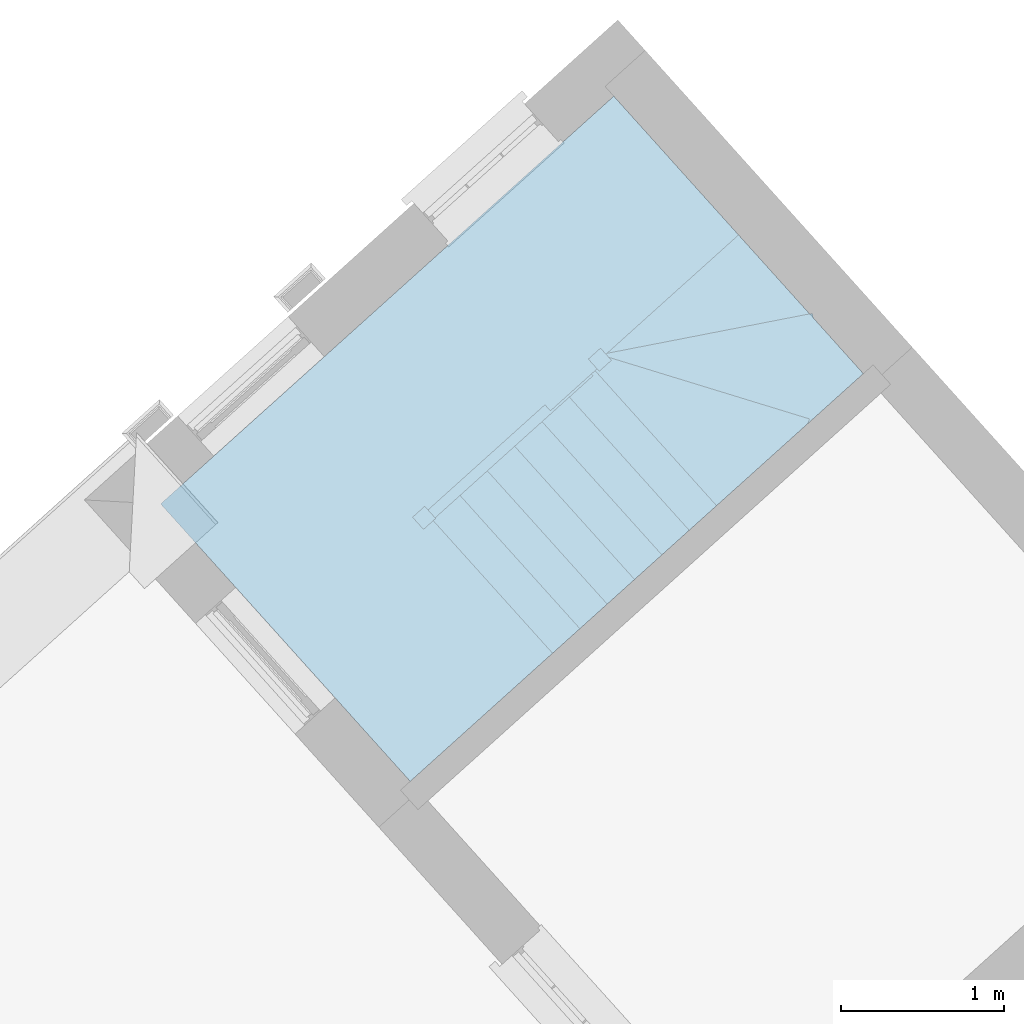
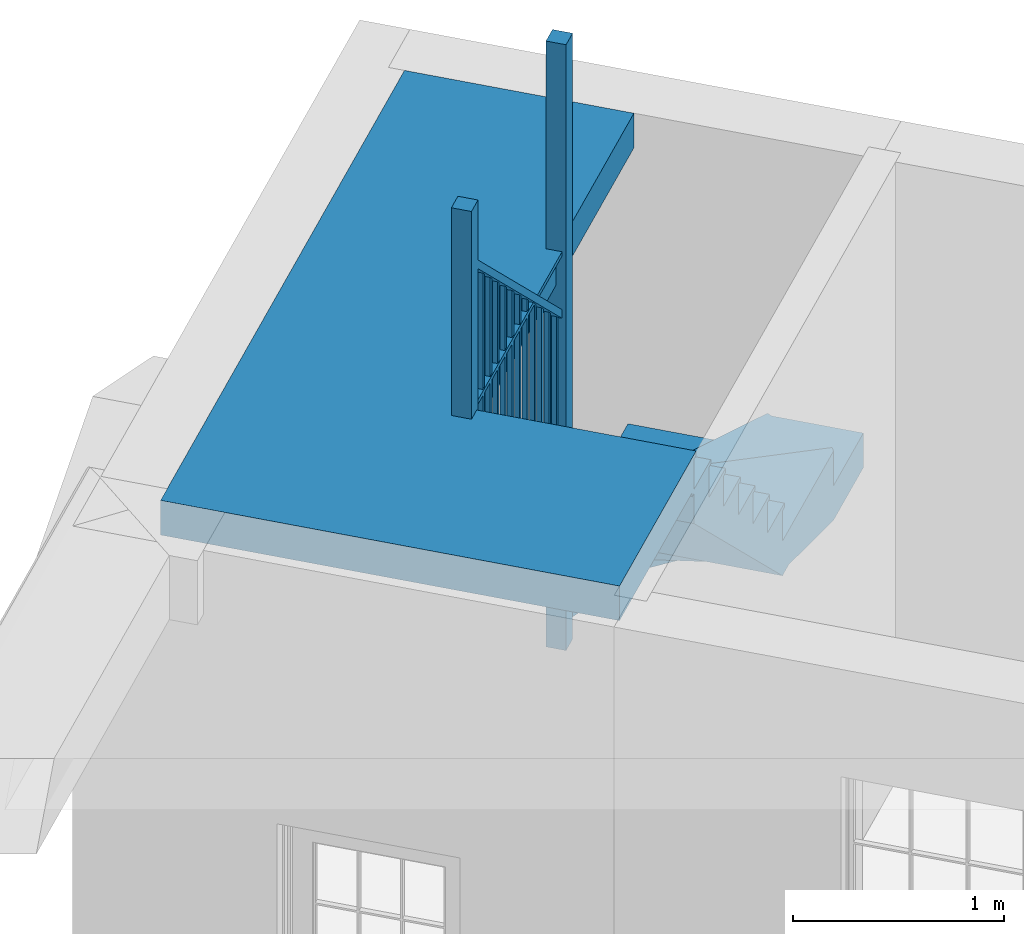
# One storey, part 6 of 6: 1 stair.
"""IFC4 building model written with IfcOpenShell, lengths in metres."""

from ifc_helpers import new_model, si_unit, frame, origin, origin_with_axes, place, context, subcontext, project, spatial, faceted_brep, element, save


model = new_model("IFC4")

# Units and contexts
model_context = context("Model", 3, world=origin_with_axes())
body_context = subcontext(model_context, "Body", "Model", "MODEL_VIEW")
ifc_project = project(units=[si_unit("PLANEANGLEUNIT", "RADIAN"), si_unit("MASSUNIT", "GRAM", prefix="KILO"), si_unit("FORCEUNIT", "NEWTON", prefix="KILO"), si_unit("LENGTHUNIT", "METRE"), si_unit("AREAUNIT", "SQUARE_METRE"), si_unit("VOLUMEUNIT", "CUBIC_METRE")], contexts=[model_context, model_context])

# Sites, building, storey
site_1_placement = place(None, origin_with_axes())
site_1 = spatial("IfcSite", under=ifc_project, at=site_1_placement, Name="Tamar")
site_2_placement = place(site_1_placement, origin_with_axes())
site_2 = spatial("IfcSite", under=site_1, at=site_2_placement, Name="Site plot-6", CompositionType="ELEMENT")
building_placement = place(None, origin_with_axes())
building = spatial("IfcBuilding", under=site_2, at=building_placement, Name="Building plot-6", CompositionType="ELEMENT")
storey_placement = place(None, frame((0.0, 0.0, 24.5), z_axis=(0.0, 0.0, 1.0), x_axis=(1.0, 0.0, 0.0)))
storey = spatial("IfcBuildingStorey", under=building, at=storey_placement, Name="plot-6 0", CompositionType="ELEMENT", Elevation=24.5)

# Stair
stair_placement = place(None, origin())
element("IfcStair", 1, at=stair_placement, inside=storey, Name="Stair", PredefinedType="NOTDEFINED", context=body_context, shape_type="Brep", body=[
    faceted_brep([(236.812, 283.066598, 28.1), (236.048192, 283.91553, 28.1), (234.972724, 282.947899, 28.1), (235.736532, 282.098968, 28.1), (235.736532, 282.098968, 27.9), (234.972724, 282.947899, 27.9), (236.048192, 283.91553, 27.9), (236.812, 283.066598, 27.9)], [[[0, 1, 2, 3]], [[4, 5, 6, 7]], [[7, 6, 1, 0]], [[6, 5, 2, 1]], [[5, 4, 3, 2]], [[4, 7, 0, 3]]]),
    faceted_brep([(235.736532, 282.098968, 28.075), (235.756598, 282.076666, 28.075), (235.736532, 282.098968, 28.1), (236.832066, 283.044297, 28.075), (236.812, 283.066598, 28.075), (236.812, 283.066598, 28.1), (235.756598, 282.076666, 28.1), (236.832066, 283.044297, 28.1)], [[[0, 1, 2]], [[3, 4, 5]], [[1, 6, 2]], [[7, 3, 5]], [[2, 6, 7, 5]], [[0, 2, 5, 4]], [[1, 0, 4, 3]], [[6, 1, 3, 7]]]),
    faceted_brep([(235.732805, 282.028355, 29.3), (235.807145, 282.095241, 29.3), (235.740259, 282.16958, 29.3), (235.66592, 282.102695, 29.3), (235.66592, 282.102695, 28.1), (235.740259, 282.16958, 28.1), (235.807145, 282.095241, 28.1), (235.732805, 282.028355, 28.1)], [[[0, 1, 2, 3]], [[4, 5, 6, 7]], [[7, 6, 1, 0]], [[6, 5, 2, 1]], [[5, 4, 3, 2]], [[4, 7, 0, 3]]]),
    faceted_brep([(235.736532, 282.098968, 28.1), (234.972724, 282.947899, 28.1), (234.123792, 282.18409, 28.1), (234.887601, 281.335159, 28.1), (234.887601, 281.335159, 27.9), (234.123792, 282.18409, 27.9), (234.972724, 282.947899, 27.9), (235.736532, 282.098968, 27.9)], [[[0, 1, 2, 3]], [[4, 5, 6, 7]], [[7, 6, 1, 0]], [[6, 5, 2, 1]], [[5, 4, 3, 2]], [[4, 7, 0, 3]]]),
    faceted_brep([(234.907667, 281.312857, 28.075), (234.907667, 281.312857, 28.1), (234.887601, 281.335159, 28.075), (235.756598, 282.076666, 28.1), (235.756598, 282.076666, 28.075), (235.736532, 282.098968, 28.075), (234.887601, 281.335159, 28.1), (235.736532, 282.098968, 28.1)], [[[0, 1, 2]], [[3, 4, 5]], [[2, 1, 6]], [[3, 5, 7]], [[6, 1, 3, 7]], [[2, 6, 7, 5]], [[0, 2, 5, 4]], [[1, 0, 4, 3]]]),
    faceted_brep([(235.732805, 282.028355, 28.1), (235.807145, 282.095241, 28.1), (235.740259, 282.16958, 28.1), (235.66592, 282.102695, 28.1), (235.66592, 282.102695, 27.6), (235.740259, 282.16958, 27.6), (235.807145, 282.095241, 27.6), (235.732805, 282.028355, 27.6)], [[[0, 1, 2, 3]], [[4, 5, 6, 7]], [[7, 6, 1, 0]], [[6, 5, 2, 1]], [[5, 4, 3, 2]], [[4, 7, 0, 3]]]),
    faceted_brep([(235.736532, 282.098968, 27.9), (234.887601, 281.335159, 27.9), (234.887601, 281.335159, 28.1), (235.736532, 282.098968, 28.1)], [[[0, 1, 2, 3]], [[1, 0, 3, 2]]]),
    faceted_brep([(235.736532, 282.098968, 28.075), (235.715319, 282.077755, 28.075), (235.736532, 282.098968, 28.1), (235.715319, 282.077755, 28.1)], [[[0, 1, 2]], [[1, 0, 2]], [[1, 3, 2]], [[3, 1, 2]]]),
    faceted_brep([(235.807145, 282.095241, 29.3), (235.740259, 282.16958, 29.3), (235.66592, 282.102695, 29.3), (235.732805, 282.028355, 29.3), (235.732805, 282.028355, 28.1), (235.66592, 282.102695, 28.1), (235.740259, 282.16958, 28.1), (235.807145, 282.095241, 28.1)], [[[0, 1, 2, 3]], [[4, 5, 6, 7]], [[7, 6, 1, 0]], [[6, 5, 2, 1]], [[5, 4, 3, 2]], [[4, 7, 0, 3]]]),
    faceted_brep([(235.736532, 282.098968, 28.1), (234.887601, 281.335159, 28.1), (235.65141, 280.486228, 28.1), (236.500341, 281.250036, 28.1), (236.500341, 281.250036, 27.9), (235.65141, 280.486228, 27.9), (234.887601, 281.335159, 27.9), (235.736532, 282.098968, 27.9)], [[[0, 1, 2, 3]], [[4, 5, 6, 7]], [[7, 6, 1, 0]], [[6, 5, 2, 1]], [[5, 4, 3, 2]], [[4, 7, 0, 3]]]),
    faceted_brep([(236.500341, 281.250036, 28.075), (236.522643, 281.270102, 28.075), (236.500341, 281.250036, 28.1), (235.758834, 282.119033, 28.075), (235.736532, 282.098968, 28.075), (235.736532, 282.098968, 28.1), (236.522643, 281.270102, 28.1), (235.758834, 282.119033, 28.1)], [[[0, 1, 2]], [[3, 4, 5]], [[1, 6, 2]], [[7, 3, 5]], [[2, 6, 7, 5]], [[0, 2, 5, 4]], [[1, 0, 4, 3]], [[6, 1, 3, 7]]]),
    faceted_brep([(235.807145, 282.095241, 28.1), (235.740259, 282.16958, 28.1), (235.66592, 282.102695, 28.1), (235.732805, 282.028355, 28.1), (235.732805, 282.028355, 27.6), (235.66592, 282.102695, 27.6), (235.740259, 282.16958, 27.6), (235.807145, 282.095241, 27.6)], [[[0, 1, 2, 3]], [[4, 5, 6, 7]], [[7, 6, 1, 0]], [[6, 5, 2, 1]], [[5, 4, 3, 2]], [[4, 7, 0, 3]]]),
    faceted_brep([(235.736532, 282.098968, 27.9), (236.500341, 281.250036, 27.9), (236.667605, 281.400529, 27.9), (235.903796, 282.24946, 27.9), (235.903796, 282.24946, 27.5), (236.667605, 281.400529, 27.5), (236.500341, 281.250036, 27.7), (235.736532, 282.098968, 27.7)], [[[0, 1, 2, 3]], [[4, 5, 6, 7]], [[7, 6, 1, 0]], [[1, 6, 5, 2]], [[5, 4, 3, 2]], [[3, 4, 7, 0]]]),
    faceted_brep([(236.689907, 281.420594, 27.875), (236.689907, 281.420594, 27.9), (236.667605, 281.400529, 27.875), (236.478039, 281.229971, 27.9), (236.478039, 281.229971, 27.875), (236.500341, 281.250036, 27.875), (236.667605, 281.400529, 27.9), (236.500341, 281.250036, 27.9), (235.906032, 282.291827, 27.9), (235.903796, 282.24946, 27.9), (235.903796, 282.24946, 27.875), (235.906032, 282.291827, 27.875), (235.694165, 282.101204, 27.9), (235.736532, 282.098968, 27.9), (235.736532, 282.098968, 27.875), (235.694165, 282.101204, 27.875)], [[[0, 1, 2]], [[3, 4, 5]], [[2, 1, 6]], [[3, 5, 7]], [[6, 1, 8, 9]], [[2, 6, 9, 10]], [[0, 2, 10, 11]], [[1, 0, 11, 8]], [[9, 8, 12, 13]], [[10, 9, 13, 14]], [[11, 10, 14, 15]], [[8, 11, 15, 12]], [[13, 12, 3, 7]], [[14, 13, 7, 5]], [[15, 14, 5, 4]], [[12, 15, 4, 3]]]),
    faceted_brep([(235.903796, 282.24946, 28.8), (235.885211, 282.232738, 28.8), (235.901933, 282.214154, 28.8), (235.920517, 282.230875, 28.8), (235.920517, 282.230875, 27.9), (235.901933, 282.214154, 27.9), (235.885211, 282.232738, 27.9), (235.903796, 282.24946, 27.9)], [[[0, 1, 2, 3]], [[4, 5, 6, 7]], [[7, 6, 1, 0]], [[6, 5, 2, 1]], [[5, 4, 3, 2]], [[4, 7, 0, 3]]]),
    faceted_brep([(235.820164, 282.174214, 28.9), (235.801579, 282.157492, 28.9), (235.818301, 282.138908, 28.9), (235.836886, 282.155629, 28.9), (235.836886, 282.155629, 27.9), (235.818301, 282.138908, 27.9), (235.801579, 282.157492, 27.9), (235.820164, 282.174214, 27.9)], [[[0, 1, 2, 3]], [[4, 5, 6, 7]], [[7, 6, 1, 0]], [[6, 5, 2, 1]], [[5, 4, 3, 2]], [[4, 7, 0, 3]]]),
    faceted_brep([(235.933894, 282.216007, 28.75), (235.890419, 282.264328, 28.75), (235.890419, 282.264328, 28.8), (235.933894, 282.216007, 28.8), (235.723155, 282.113836, 28.95), (235.766631, 282.065515, 28.95), (235.766631, 282.065515, 29.0), (235.723155, 282.113836, 29.0)], [[[0, 1, 2, 3]], [[4, 5, 6, 7]], [[0, 5, 4, 1]], [[3, 2, 7, 6]], [[0, 3, 6, 5]], [[2, 1, 4, 7]]]),
    faceted_brep([(235.903796, 282.24946, 27.7), (236.667605, 281.400529, 27.7), (236.834868, 281.551021, 27.7), (236.07106, 282.399952, 27.7), (236.07106, 282.399952, 27.3), (236.834868, 281.551021, 27.3), (236.667605, 281.400529, 27.5), (235.903796, 282.24946, 27.5)], [[[0, 1, 2, 3]], [[4, 5, 6, 7]], [[7, 6, 1, 0]], [[1, 6, 5, 2]], [[5, 4, 3, 2]], [[3, 4, 7, 0]]]),
    faceted_brep([(236.85717, 281.571086, 27.675), (236.85717, 281.571086, 27.7), (236.834868, 281.551021, 27.675), (236.645303, 281.380463, 27.7), (236.645303, 281.380463, 27.675), (236.667605, 281.400529, 27.675), (236.834868, 281.551021, 27.7), (236.667605, 281.400529, 27.7), (236.073296, 282.442319, 27.7), (236.07106, 282.399952, 27.7), (236.07106, 282.399952, 27.675), (236.073296, 282.442319, 27.675), (235.861429, 282.251696, 27.7), (235.903796, 282.24946, 27.7), (235.903796, 282.24946, 27.675), (235.861429, 282.251696, 27.675)], [[[0, 1, 2]], [[3, 4, 5]], [[2, 1, 6]], [[3, 5, 7]], [[6, 1, 8, 9]], [[2, 6, 9, 10]], [[0, 2, 10, 11]], [[1, 0, 11, 8]], [[9, 8, 12, 13]], [[10, 9, 13, 14]], [[11, 10, 14, 15]], [[8, 11, 15, 12]], [[13, 12, 3, 7]], [[14, 13, 7, 5]], [[15, 14, 5, 4]], [[12, 15, 4, 3]]]),
    faceted_brep([(236.07106, 282.399952, 28.6), (236.052475, 282.383231, 28.6), (236.069196, 282.364646, 28.6), (236.087781, 282.381367, 28.6), (236.087781, 282.381367, 27.7), (236.069196, 282.364646, 27.7), (236.052475, 282.383231, 27.7), (236.07106, 282.399952, 27.7)], [[[0, 1, 2, 3]], [[4, 5, 6, 7]], [[7, 6, 1, 0]], [[6, 5, 2, 1]], [[5, 4, 3, 2]], [[4, 7, 0, 3]]]),
    faceted_brep([(235.987428, 282.324706, 28.7), (235.968843, 282.307985, 28.7), (235.985564, 282.2894, 28.7), (236.004149, 282.306121, 28.7), (236.004149, 282.306121, 27.7), (235.985564, 282.2894, 27.7), (235.968843, 282.307985, 27.7), (235.987428, 282.324706, 27.7)], [[[0, 1, 2, 3]], [[4, 5, 6, 7]], [[7, 6, 1, 0]], [[6, 5, 2, 1]], [[5, 4, 3, 2]], [[4, 7, 0, 3]]]),
    faceted_brep([(236.101158, 282.366499, 28.55), (236.057683, 282.41482, 28.55), (236.057683, 282.41482, 28.6), (236.101158, 282.366499, 28.6), (235.890419, 282.264328, 28.75), (235.933894, 282.216007, 28.75), (235.933894, 282.216007, 28.8), (235.890419, 282.264328, 28.8)], [[[0, 1, 2, 3]], [[4, 5, 6, 7]], [[0, 5, 4, 1]], [[3, 2, 7, 6]], [[0, 3, 6, 5]], [[2, 1, 4, 7]]]),
    faceted_brep([(236.07106, 282.399952, 27.5), (236.834868, 281.551021, 27.5), (237.002132, 281.701513, 27.5), (236.238323, 282.550444, 27.5), (236.238323, 282.550444, 27.1), (237.002132, 281.701513, 27.1), (236.834868, 281.551021, 27.3), (236.07106, 282.399952, 27.3)], [[[0, 1, 2, 3]], [[4, 5, 6, 7]], [[7, 6, 1, 0]], [[1, 6, 5, 2]], [[5, 4, 3, 2]], [[3, 4, 7, 0]]]),
    faceted_brep([(237.024434, 281.721578, 27.475), (237.024434, 281.721578, 27.5), (237.002132, 281.701513, 27.475), (236.812567, 281.530955, 27.5), (236.812567, 281.530955, 27.475), (236.834868, 281.551021, 27.475), (237.002132, 281.701513, 27.5), (236.834868, 281.551021, 27.5), (236.24056, 282.592811, 27.5), (236.238323, 282.550444, 27.5), (236.238323, 282.550444, 27.475), (236.24056, 282.592811, 27.475), (236.028692, 282.402188, 27.5), (236.07106, 282.399952, 27.5), (236.07106, 282.399952, 27.475), (236.028692, 282.402188, 27.475)], [[[0, 1, 2]], [[3, 4, 5]], [[2, 1, 6]], [[3, 5, 7]], [[6, 1, 8, 9]], [[2, 6, 9, 10]], [[0, 2, 10, 11]], [[1, 0, 11, 8]], [[9, 8, 12, 13]], [[10, 9, 13, 14]], [[11, 10, 14, 15]], [[8, 11, 15, 12]], [[13, 12, 3, 7]], [[14, 13, 7, 5]], [[15, 14, 5, 4]], [[12, 15, 4, 3]]]),
    faceted_brep([(236.238323, 282.550444, 28.4), (236.219739, 282.533723, 28.4), (236.23646, 282.515138, 28.4), (236.255045, 282.531859, 28.4), (236.255045, 282.531859, 27.5), (236.23646, 282.515138, 27.5), (236.219739, 282.533723, 27.5), (236.238323, 282.550444, 27.5)], [[[0, 1, 2, 3]], [[4, 5, 6, 7]], [[7, 6, 1, 0]], [[6, 5, 2, 1]], [[5, 4, 3, 2]], [[4, 7, 0, 3]]]),
    faceted_brep([(236.154692, 282.475198, 28.5), (236.136107, 282.458477, 28.5), (236.152828, 282.439892, 28.5), (236.171413, 282.456613, 28.5), (236.171413, 282.456613, 27.5), (236.152828, 282.439892, 27.5), (236.136107, 282.458477, 27.5), (236.154692, 282.475198, 27.5)], [[[0, 1, 2, 3]], [[4, 5, 6, 7]], [[7, 6, 1, 0]], [[6, 5, 2, 1]], [[5, 4, 3, 2]], [[4, 7, 0, 3]]]),
    faceted_brep([(236.268422, 282.516991, 28.35), (236.224946, 282.565312, 28.35), (236.224946, 282.565312, 28.4), (236.268422, 282.516991, 28.4), (236.057683, 282.41482, 28.55), (236.101158, 282.366499, 28.55), (236.101158, 282.366499, 28.6), (236.057683, 282.41482, 28.6)], [[[0, 1, 2, 3]], [[4, 5, 6, 7]], [[0, 5, 4, 1]], [[3, 2, 7, 6]], [[0, 3, 6, 5]], [[2, 1, 4, 7]]]),
    faceted_brep([(236.238323, 282.550444, 27.3), (237.002132, 281.701513, 27.3), (237.169396, 281.852005, 27.3), (236.405587, 282.700936, 27.3), (236.405587, 282.700936, 26.9), (237.169396, 281.852005, 26.9), (237.002132, 281.701513, 27.1), (236.238323, 282.550444, 27.1)], [[[0, 1, 2, 3]], [[4, 5, 6, 7]], [[7, 6, 1, 0]], [[1, 6, 5, 2]], [[5, 4, 3, 2]], [[3, 4, 7, 0]]]),
    faceted_brep([(237.191698, 281.87207, 27.275), (237.191698, 281.87207, 27.3), (237.169396, 281.852005, 27.275), (236.97983, 281.681447, 27.3), (236.97983, 281.681447, 27.275), (237.002132, 281.701513, 27.275), (237.169396, 281.852005, 27.3), (237.002132, 281.701513, 27.3), (236.407823, 282.743304, 27.3), (236.405587, 282.700936, 27.3), (236.405587, 282.700936, 27.275), (236.407823, 282.743304, 27.275), (236.195956, 282.55268, 27.3), (236.238323, 282.550444, 27.3), (236.238323, 282.550444, 27.275), (236.195956, 282.55268, 27.275)], [[[0, 1, 2]], [[3, 4, 5]], [[2, 1, 6]], [[3, 5, 7]], [[6, 1, 8, 9]], [[2, 6, 9, 10]], [[0, 2, 10, 11]], [[1, 0, 11, 8]], [[9, 8, 12, 13]], [[10, 9, 13, 14]], [[11, 10, 14, 15]], [[8, 11, 15, 12]], [[13, 12, 3, 7]], [[14, 13, 7, 5]], [[15, 14, 5, 4]], [[12, 15, 4, 3]]]),
    faceted_brep([(236.405587, 282.700936, 28.2), (236.387002, 282.684215, 28.2), (236.403724, 282.66563, 28.2), (236.422308, 282.682351, 28.2), (236.422308, 282.682351, 27.3), (236.403724, 282.66563, 27.3), (236.387002, 282.684215, 27.3), (236.405587, 282.700936, 27.3)], [[[0, 1, 2, 3]], [[4, 5, 6, 7]], [[7, 6, 1, 0]], [[6, 5, 2, 1]], [[5, 4, 3, 2]], [[4, 7, 0, 3]]]),
    faceted_brep([(236.321955, 282.62569, 28.3), (236.30337, 282.608969, 28.3), (236.320092, 282.590384, 28.3), (236.338677, 282.607105, 28.3), (236.338677, 282.607105, 27.3), (236.320092, 282.590384, 27.3), (236.30337, 282.608969, 27.3), (236.321955, 282.62569, 27.3)], [[[0, 1, 2, 3]], [[4, 5, 6, 7]], [[7, 6, 1, 0]], [[6, 5, 2, 1]], [[5, 4, 3, 2]], [[4, 7, 0, 3]]]),
    faceted_brep([(236.435685, 282.667483, 28.15), (236.39221, 282.715804, 28.15), (236.39221, 282.715804, 28.2), (236.435685, 282.667483, 28.2), (236.224946, 282.565312, 28.35), (236.268422, 282.516991, 28.35), (236.268422, 282.516991, 28.4), (236.224946, 282.565312, 28.4)], [[[0, 1, 2, 3]], [[4, 5, 6, 7]], [[0, 5, 4, 1]], [[3, 2, 7, 6]], [[0, 3, 6, 5]], [[2, 1, 4, 7]]]),
    faceted_brep([(236.405587, 282.700936, 27.1), (237.169396, 281.852005, 27.1), (237.336659, 282.002497, 27.1), (236.572851, 282.851428, 27.1), (236.572851, 282.851428, 26.7), (237.336659, 282.002497, 26.7), (237.169396, 281.852005, 26.9), (236.405587, 282.700936, 26.9)], [[[0, 1, 2, 3]], [[4, 5, 6, 7]], [[7, 6, 1, 0]], [[1, 6, 5, 2]], [[5, 4, 3, 2]], [[3, 4, 7, 0]]]),
    faceted_brep([(237.336659, 282.002497, 27.075), (237.358961, 282.022562, 27.075), (237.336659, 282.002497, 27.1), (237.147094, 281.831939, 27.075), (237.169396, 281.852005, 27.075), (237.169396, 281.852005, 27.1), (237.358961, 282.022562, 27.1), (237.147094, 281.831939, 27.1), (236.575087, 282.893796, 27.1), (236.572851, 282.851428, 27.1), (236.572851, 282.851428, 27.075), (236.575087, 282.893796, 27.075), (236.36322, 282.703172, 27.1), (236.405587, 282.700936, 27.1), (236.405587, 282.700936, 27.075), (236.36322, 282.703172, 27.075)], [[[0, 1, 2]], [[3, 4, 5]], [[1, 6, 2]], [[7, 3, 5]], [[2, 6, 8, 9]], [[0, 2, 9, 10]], [[1, 0, 10, 11]], [[6, 1, 11, 8]], [[9, 8, 12, 13]], [[10, 9, 13, 14]], [[11, 10, 14, 15]], [[8, 11, 15, 12]], [[13, 12, 7, 5]], [[14, 13, 5, 4]], [[15, 14, 4, 3]], [[12, 15, 3, 7]]]),
    faceted_brep([(236.572851, 282.851428, 28.0), (236.554266, 282.834707, 28.0), (236.570987, 282.816122, 28.0), (236.589572, 282.832843, 28.0), (236.589572, 282.832843, 27.1), (236.570987, 282.816122, 27.1), (236.554266, 282.834707, 27.1), (236.572851, 282.851428, 27.1)], [[[0, 1, 2, 3]], [[4, 5, 6, 7]], [[7, 6, 1, 0]], [[6, 5, 2, 1]], [[5, 4, 3, 2]], [[4, 7, 0, 3]]]),
    faceted_brep([(236.489219, 282.776182, 28.1), (236.470634, 282.759461, 28.1), (236.487355, 282.740876, 28.1), (236.50594, 282.757597, 28.1), (236.50594, 282.757597, 27.1), (236.487355, 282.740876, 27.1), (236.470634, 282.759461, 27.1), (236.489219, 282.776182, 27.1)], [[[0, 1, 2, 3]], [[4, 5, 6, 7]], [[7, 6, 1, 0]], [[6, 5, 2, 1]], [[5, 4, 3, 2]], [[4, 7, 0, 3]]]),
    faceted_brep([(236.602949, 282.817975, 27.95), (236.559474, 282.866296, 27.95), (236.559474, 282.866296, 28.0), (236.602949, 282.817975, 28.0), (236.39221, 282.715804, 28.15), (236.435685, 282.667483, 28.15), (236.435685, 282.667483, 28.2), (236.39221, 282.715804, 28.2)], [[[0, 1, 2, 3]], [[4, 5, 6, 7]], [[0, 5, 4, 1]], [[3, 2, 7, 6]], [[0, 3, 6, 5]], [[2, 1, 4, 7]]]),
    faceted_brep([(236.572851, 282.851428, 26.9), (237.336659, 282.002497, 26.9), (237.503923, 282.152989, 26.9), (236.740114, 283.00192, 26.9), (236.740114, 283.00192, 26.5), (237.503923, 282.152989, 26.5), (237.336659, 282.002497, 26.7), (236.572851, 282.851428, 26.7)], [[[0, 1, 2, 3]], [[4, 5, 6, 7]], [[7, 6, 1, 0]], [[1, 6, 5, 2]], [[5, 4, 3, 2]], [[3, 4, 7, 0]]]),
    faceted_brep([(237.526225, 282.173055, 26.875), (237.526225, 282.173055, 26.9), (237.503923, 282.152989, 26.875), (237.314358, 281.982431, 26.9), (237.314358, 281.982431, 26.875), (237.336659, 282.002497, 26.875), (237.503923, 282.152989, 26.9), (237.336659, 282.002497, 26.9), (236.742351, 283.044288, 26.9), (236.740114, 283.00192, 26.9), (236.740114, 283.00192, 26.875), (236.742351, 283.044288, 26.875), (236.530483, 282.853664, 26.9), (236.572851, 282.851428, 26.9), (236.572851, 282.851428, 26.875), (236.530483, 282.853664, 26.875)], [[[0, 1, 2]], [[3, 4, 5]], [[2, 1, 6]], [[3, 5, 7]], [[6, 1, 8, 9]], [[2, 6, 9, 10]], [[0, 2, 10, 11]], [[1, 0, 11, 8]], [[9, 8, 12, 13]], [[10, 9, 13, 14]], [[11, 10, 14, 15]], [[8, 11, 15, 12]], [[13, 12, 3, 7]], [[14, 13, 7, 5]], [[15, 14, 5, 4]], [[12, 15, 4, 3]]]),
    faceted_brep([(236.740114, 283.00192, 27.8), (236.721529, 282.985199, 27.8), (236.738251, 282.966614, 27.8), (236.756836, 282.983335, 27.8), (236.756836, 282.983335, 26.9), (236.738251, 282.966614, 26.9), (236.721529, 282.985199, 26.9), (236.740114, 283.00192, 26.9)], [[[0, 1, 2, 3]], [[4, 5, 6, 7]], [[7, 6, 1, 0]], [[6, 5, 2, 1]], [[5, 4, 3, 2]], [[4, 7, 0, 3]]]),
    faceted_brep([(236.656483, 282.926674, 27.9), (236.637898, 282.909953, 27.9), (236.654619, 282.891368, 27.9), (236.673204, 282.908089, 27.9), (236.673204, 282.908089, 26.9), (236.654619, 282.891368, 26.9), (236.637898, 282.909953, 26.9), (236.656483, 282.926674, 26.9)], [[[0, 1, 2, 3]], [[4, 5, 6, 7]], [[7, 6, 1, 0]], [[6, 5, 2, 1]], [[5, 4, 3, 2]], [[4, 7, 0, 3]]]),
    faceted_brep([(236.770213, 282.968468, 27.75), (236.726737, 283.016788, 27.75), (236.726737, 283.016788, 27.8), (236.770213, 282.968468, 27.8), (236.559474, 282.866296, 27.95), (236.602949, 282.817975, 27.95), (236.602949, 282.817975, 28.0), (236.559474, 282.866296, 28.0)], [[[0, 1, 2, 3]], [[4, 5, 6, 7]], [[0, 5, 4, 1]], [[3, 2, 7, 6]], [[0, 3, 6, 5]], [[2, 1, 4, 7]]]),
    faceted_brep([(236.740114, 283.00192, 26.7), (237.503923, 282.152989, 26.7), (237.575809, 282.217667, 26.7), (236.812, 283.066598, 26.7), (236.812, 283.066598, 26.5), (237.575809, 282.217667, 26.5), (237.503923, 282.152989, 26.5), (236.740114, 283.00192, 26.5)], [[[0, 1, 2, 3]], [[4, 5, 6, 7]], [[7, 6, 1, 0]], [[6, 5, 2, 1]], [[5, 4, 3, 2]], [[4, 7, 0, 3]]]),
    faceted_brep([(236.812, 283.066598, 26.675), (236.791935, 283.0889, 26.675), (236.812, 283.066598, 26.7), (236.720049, 283.024222, 26.675), (236.740114, 283.00192, 26.675), (236.740114, 283.00192, 26.7), (236.791935, 283.0889, 26.7), (236.720049, 283.024222, 26.7)], [[[0, 1, 2]], [[3, 4, 5]], [[1, 6, 2]], [[7, 3, 5]], [[2, 6, 7, 5]], [[0, 2, 5, 4]], [[1, 0, 4, 3]], [[6, 1, 3, 7]]]),
    faceted_brep([(236.815727, 283.137211, 27.9), (236.741388, 283.070325, 27.9), (236.808273, 282.995986, 27.9), (236.882613, 283.062871, 27.9), (236.882613, 283.062871, 26.7), (236.808273, 282.995986, 26.7), (236.741388, 283.070325, 26.7), (236.815727, 283.137211, 26.7)], [[[0, 1, 2, 3]], [[4, 5, 6, 7]], [[7, 6, 1, 0]], [[6, 5, 2, 1]], [[5, 4, 3, 2]], [[4, 7, 0, 3]]]),
    faceted_brep([(237.575809, 282.217667, 26.7), (238.085168, 282.675952, 26.7), (236.812, 283.066598, 26.7), (236.812, 283.066598, 26.3), (238.085168, 282.675952, 26.3), (237.575809, 282.217667, 26.5)], [[[0, 1, 2]], [[3, 4, 5]], [[0, 5, 4, 1]], [[4, 3, 2, 1]], [[2, 3, 5, 0]]]),
    faceted_brep([(238.093968, 282.704633, 26.675), (238.093968, 282.704633, 26.7), (238.085168, 282.675952, 26.675), (236.8208, 283.095279, 26.7), (236.8208, 283.095279, 26.675), (236.812, 283.066598, 26.675), (238.085168, 282.675952, 26.7), (236.812, 283.066598, 26.7)], [[[0, 1, 2]], [[3, 4, 5]], [[2, 1, 6]], [[3, 5, 7]], [[6, 1, 3, 7]], [[2, 6, 7, 5]], [[0, 2, 5, 4]], [[1, 0, 4, 3]]]),
    faceted_brep([(238.085168, 282.675952, 26.5), (238.42474, 282.981476, 26.5), (238.119217, 283.321048, 26.5), (236.812, 283.066598, 26.5), (236.812, 283.066598, 26.1), (238.119217, 283.321048, 26.1), (238.42474, 282.981476, 26.3), (238.085168, 282.675952, 26.3)], [[[0, 1, 2, 3]], [[4, 5, 6, 7]], [[7, 6, 1, 0]], [[1, 6, 5, 2]], [[5, 4, 3, 2]], [[3, 4, 7, 0]]]),
    faceted_brep([(238.119217, 283.321048, 26.475), (238.113485, 283.350496, 26.475), (238.119217, 283.321048, 26.5), (236.806269, 283.096046, 26.475), (236.812, 283.066598, 26.475), (236.812, 283.066598, 26.5), (238.113485, 283.350496, 26.5), (236.806269, 283.096046, 26.5)], [[[0, 1, 2]], [[3, 4, 5]], [[1, 6, 2]], [[7, 3, 5]], [[2, 6, 7, 5]], [[0, 2, 5, 4]], [[1, 0, 4, 3]], [[6, 1, 3, 7]]]),
    faceted_brep([(238.119217, 283.321048, 26.3), (237.660932, 283.830407, 26.3), (236.812, 283.066598, 26.3), (236.812, 283.066598, 25.9), (237.660932, 283.830407, 25.9), (238.119217, 283.321048, 26.1)], [[[0, 1, 2]], [[3, 4, 5]], [[0, 5, 4, 1]], [[4, 3, 2, 1]], [[2, 3, 5, 0]]]),
    faceted_brep([(237.660932, 283.830407, 26.275), (237.640866, 283.852709, 26.275), (237.660932, 283.830407, 26.3), (236.791935, 283.0889, 26.275), (236.812, 283.066598, 26.275), (236.812, 283.066598, 26.3), (237.640866, 283.852709, 26.3), (236.791935, 283.0889, 26.3)], [[[0, 1, 2]], [[3, 4, 5]], [[1, 6, 2]], [[7, 3, 5]], [[2, 6, 7, 5]], [[0, 2, 5, 4]], [[1, 0, 4, 3]], [[6, 1, 3, 7]]]),
    faceted_brep([(236.815727, 283.137211, 26.7), (236.741388, 283.070325, 26.7), (236.808273, 282.995986, 26.7), (236.882613, 283.062871, 26.7), (236.882613, 283.062871, 25.8), (236.808273, 282.995986, 25.8), (236.741388, 283.070325, 25.8), (236.815727, 283.137211, 25.8)], [[[0, 1, 2, 3]], [[4, 5, 6, 7]], [[7, 6, 1, 0]], [[6, 5, 2, 1]], [[5, 4, 3, 2]], [[4, 7, 0, 3]]]),
    faceted_brep([(236.812, 283.066598, 25.9), (237.660932, 283.830407, 25.9), (237.660932, 283.830407, 26.1), (236.812, 283.066598, 26.1)], [[[0, 1, 2, 3]], [[1, 0, 3, 2]]]),
    faceted_brep([(236.834299, 283.086667, 26.075), (236.834299, 283.086667, 26.1), (236.812, 283.066598, 26.075), (236.812, 283.066598, 26.1)], [[[0, 1, 2]], [[1, 0, 2]], [[2, 1, 3]], [[1, 2, 3]]]),
    faceted_brep([(236.741388, 283.070325, 29.3), (236.808273, 282.995986, 29.3), (236.882613, 283.062871, 29.3), (236.815727, 283.137211, 29.3), (236.815727, 283.137211, 28.1), (236.882613, 283.062871, 28.1), (236.808273, 282.995986, 28.1), (236.741388, 283.070325, 28.1)], [[[0, 1, 2, 3]], [[4, 5, 6, 7]], [[7, 6, 1, 0]], [[6, 5, 2, 1]], [[5, 4, 3, 2]], [[4, 7, 0, 3]]]),
    faceted_brep([(236.812, 283.066598, 28.1), (237.660932, 283.830407, 28.1), (236.897123, 284.679338, 28.1), (236.048192, 283.91553, 28.1), (236.048192, 283.91553, 27.9), (236.897123, 284.679338, 27.9), (237.660932, 283.830407, 27.9), (236.812, 283.066598, 27.9)], [[[0, 1, 2, 3]], [[4, 5, 6, 7]], [[7, 6, 1, 0]], [[6, 5, 2, 1]], [[5, 4, 3, 2]], [[4, 7, 0, 3]]]),
    faceted_brep([(236.048192, 283.91553, 28.075), (236.02589, 283.895464, 28.075), (236.048192, 283.91553, 28.1), (236.789699, 283.046533, 28.075), (236.812, 283.066598, 28.075), (236.812, 283.066598, 28.1), (236.02589, 283.895464, 28.1), (236.789699, 283.046533, 28.1)], [[[0, 1, 2]], [[3, 4, 5]], [[1, 6, 2]], [[7, 3, 5]], [[2, 6, 7, 5]], [[0, 2, 5, 4]], [[1, 0, 4, 3]], [[6, 1, 3, 7]]]),
    faceted_brep([(236.741388, 283.070325, 28.1), (236.808273, 282.995986, 28.1), (236.882613, 283.062871, 28.1), (236.815727, 283.137211, 28.1), (236.815727, 283.137211, 27.6), (236.882613, 283.062871, 27.6), (236.808273, 282.995986, 27.6), (236.741388, 283.070325, 27.6)], [[[0, 1, 2, 3]], [[4, 5, 6, 7]], [[7, 6, 1, 0]], [[6, 5, 2, 1]], [[5, 4, 3, 2]], [[4, 7, 0, 3]]]),
])

save(model, "model.ifc")
